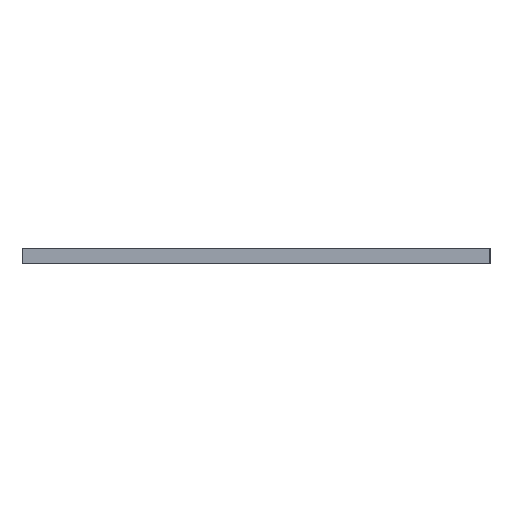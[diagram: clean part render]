
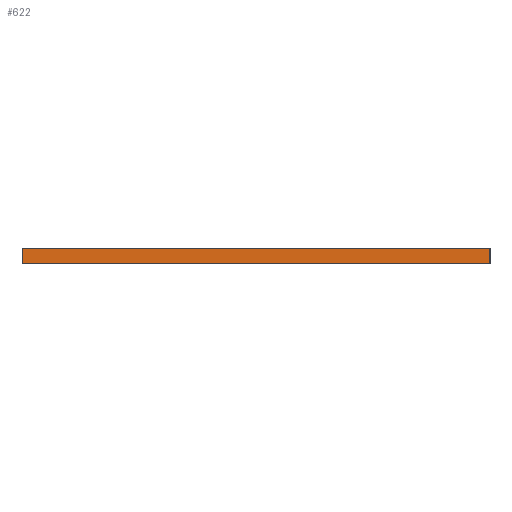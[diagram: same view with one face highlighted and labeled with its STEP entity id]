
A CAD part, left-side view. The second image highlights one B-rep face of the part: STEP entity #622.
In plain terms, the highlighted planar face has unit normal (-1, 0, 0).
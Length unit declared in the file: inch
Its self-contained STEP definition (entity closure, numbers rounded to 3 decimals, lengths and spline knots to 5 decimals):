
#21 = EDGE_CURVE ( 'NONE', #504, #430, #277, .T. ) ;
#27 = LINE ( 'NONE', #379, #637 ) ;
#31 = CARTESIAN_POINT ( 'NONE',  ( 0., -7.35, 0.25 ) ) ;
#38 = VERTEX_POINT ( 'NONE', #82 ) ;
#44 = VECTOR ( 'NONE', #388, 39.37008 ) ;
#47 = VERTEX_POINT ( 'NONE', #426 ) ;
#82 = CARTESIAN_POINT ( 'NONE',  ( 0., 0., 0. ) ) ;
#88 = FACE_OUTER_BOUND ( 'NONE', #563, .T. ) ;
#100 = CARTESIAN_POINT ( 'NONE',  ( 0., 0., 0.25 ) ) ;
#108 = AXIS2_PLACEMENT_3D ( 'NONE', #203, #742, #499 ) ;
#175 = EDGE_CURVE ( 'NONE', #430, #47, #703, .T. ) ;
#196 = ORIENTED_EDGE ( 'NONE', *, *, #535, .T. ) ;
#203 = CARTESIAN_POINT ( 'NONE',  ( 0., 0., 0.25 ) ) ;
#216 = ORIENTED_EDGE ( 'NONE', *, *, #21, .F. ) ;
#277 = LINE ( 'NONE', #100, #338 ) ;
#297 = CARTESIAN_POINT ( 'NONE',  ( 0., -7.35, 0.25 ) ) ;
#329 = LINE ( 'NONE', #621, #44 ) ;
#338 = VECTOR ( 'NONE', #370, 39.37008 ) ;
#368 = ORIENTED_EDGE ( 'NONE', *, *, #475, .T. ) ;
#370 = DIRECTION ( 'NONE',  ( 0., -1., 0. ) ) ;
#379 = CARTESIAN_POINT ( 'NONE',  ( 0., 0., 0. ) ) ;
#388 = DIRECTION ( 'NONE',  ( 0., 0., -1. ) ) ;
#408 = DIRECTION ( 'NONE',  ( 0., 0., -1. ) ) ;
#426 = CARTESIAN_POINT ( 'NONE',  ( 0., -7.35, 0. ) ) ;
#430 = VERTEX_POINT ( 'NONE', #31 ) ;
#460 = VECTOR ( 'NONE', #408, 39.37008 ) ;
#475 = EDGE_CURVE ( 'NONE', #38, #47, #27, .T. ) ;
#483 = CARTESIAN_POINT ( 'NONE',  ( 0., 0., 0.25 ) ) ;
#488 = DIRECTION ( 'NONE',  ( 0., -1., 0. ) ) ;
#499 = DIRECTION ( 'NONE',  ( 0., 1., 0. ) ) ;
#504 = VERTEX_POINT ( 'NONE', #483 ) ;
#535 = EDGE_CURVE ( 'NONE', #504, #38, #329, .T. ) ;
#563 = EDGE_LOOP ( 'NONE', ( #368, #669, #216, #196 ) ) ;
#621 = CARTESIAN_POINT ( 'NONE',  ( 0., 0., 0.25 ) ) ;
#622 = ADVANCED_FACE ( 'NONE', ( #88 ), #734, .F. ) ;
#637 = VECTOR ( 'NONE', #488, 39.37008 ) ;
#669 = ORIENTED_EDGE ( 'NONE', *, *, #175, .F. ) ;
#703 = LINE ( 'NONE', #297, #460 ) ;
#734 = PLANE ( 'NONE',  #108 ) ;
#742 = DIRECTION ( 'NONE',  ( 1., 0., 0. ) ) ;
